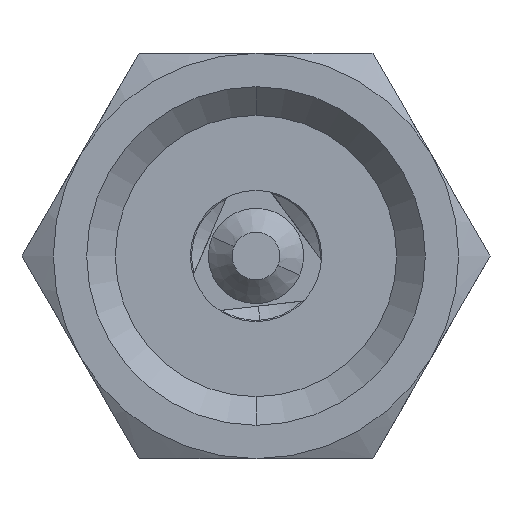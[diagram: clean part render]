
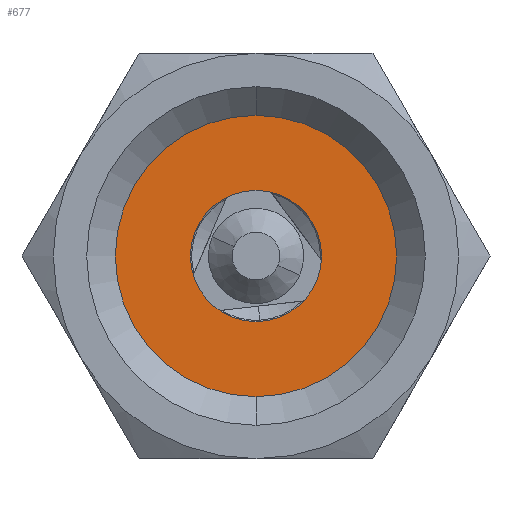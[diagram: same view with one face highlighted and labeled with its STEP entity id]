
A CAD part, front view. The second image highlights one B-rep face of the part: STEP entity #677.
In plain terms, the highlighted planar face has unit normal (0, -1, 0).
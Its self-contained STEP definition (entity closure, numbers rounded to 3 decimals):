
#118 = EDGE_CURVE ( 'NONE', #1242, #1240, #1115, .T. ) ;
#125 = EDGE_CURVE ( 'NONE', #1249, #1250, #1103, .T. ) ;
#442 = DIRECTION ( 'NONE',  ( 0., 0., -1. ) ) ;
#444 = PLANE ( 'NONE',  #3764 ) ;
#446 = CARTESIAN_POINT ( 'NONE',  ( -5.971, 11., 5.971 ) ) ;
#447 = DIRECTION ( 'NONE',  ( 0., -1., 0. ) ) ;
#458 = DIRECTION ( 'NONE',  ( 0., 0., -1. ) ) ;
#459 = DIRECTION ( 'NONE',  ( 0., 1., 0. ) ) ;
#460 = CARTESIAN_POINT ( 'NONE',  ( 0., 11., 0. ) ) ;
#669 = EDGE_CURVE ( 'NONE', #1250, #1249, #950, .T. ) ;
#671 = EDGE_CURVE ( 'NONE', #1240, #1242, #948, .T. ) ;
#677 = ADVANCED_FACE ( 'NONE', ( #943, #942 ), #444, .T. ) ;
#942 = FACE_OUTER_BOUND ( 'NONE', #1402, .T. ) ;
#943 = FACE_BOUND ( 'NONE', #1406, .T. ) ;
#948 = CIRCLE ( 'NONE', #3769, 5.9 ) ;
#950 = CIRCLE ( 'NONE', #3771, 2.75 ) ;
#1103 = CIRCLE ( 'NONE', #3619, 2.75 ) ;
#1115 = CIRCLE ( 'NONE', #3638, 5.9 ) ;
#1240 = VERTEX_POINT ( 'NONE', #1679 ) ;
#1242 = VERTEX_POINT ( 'NONE', #1677 ) ;
#1249 = VERTEX_POINT ( 'NONE', #1670 ) ;
#1250 = VERTEX_POINT ( 'NONE', #1669 ) ;
#1402 = EDGE_LOOP ( 'NONE', ( #1937, #1944 ) ) ;
#1406 = EDGE_LOOP ( 'NONE', ( #1934, #1936 ) ) ;
#1669 = CARTESIAN_POINT ( 'NONE',  ( -2.75, 11., 0. ) ) ;
#1670 = CARTESIAN_POINT ( 'NONE',  ( 2.75, 11., 0. ) ) ;
#1677 = CARTESIAN_POINT ( 'NONE',  ( 0., 11., -5.9 ) ) ;
#1679 = CARTESIAN_POINT ( 'NONE',  ( 0., 11., 5.9 ) ) ;
#1934 = ORIENTED_EDGE ( 'NONE', *, *, #125, .T. ) ;
#1936 = ORIENTED_EDGE ( 'NONE', *, *, #669, .T. ) ;
#1937 = ORIENTED_EDGE ( 'NONE', *, *, #118, .F. ) ;
#1944 = ORIENTED_EDGE ( 'NONE', *, *, #671, .F. ) ;
#2699 = DIRECTION ( 'NONE',  ( 1., 0., 0. ) ) ;
#2700 = DIRECTION ( 'NONE',  ( 0., 1., 0. ) ) ;
#2701 = CARTESIAN_POINT ( 'NONE',  ( 0., 11., 0. ) ) ;
#2819 = DIRECTION ( 'NONE',  ( 1., 0., 0. ) ) ;
#2820 = DIRECTION ( 'NONE',  ( 0., 1., 0. ) ) ;
#2821 = CARTESIAN_POINT ( 'NONE',  ( 0., 11., 0. ) ) ;
#2854 = DIRECTION ( 'NONE',  ( 0., 0., -1. ) ) ;
#2855 = DIRECTION ( 'NONE',  ( 0., 1., 0. ) ) ;
#2856 = CARTESIAN_POINT ( 'NONE',  ( 0., 11., 0. ) ) ;
#3619 = AXIS2_PLACEMENT_3D ( 'NONE', #2821, #2820, #2819 ) ;
#3638 = AXIS2_PLACEMENT_3D ( 'NONE', #2856, #2855, #2854 ) ;
#3764 = AXIS2_PLACEMENT_3D ( 'NONE', #446, #447, #442 ) ;
#3769 = AXIS2_PLACEMENT_3D ( 'NONE', #460, #459, #458 ) ;
#3771 = AXIS2_PLACEMENT_3D ( 'NONE', #2701, #2700, #2699 ) ;
